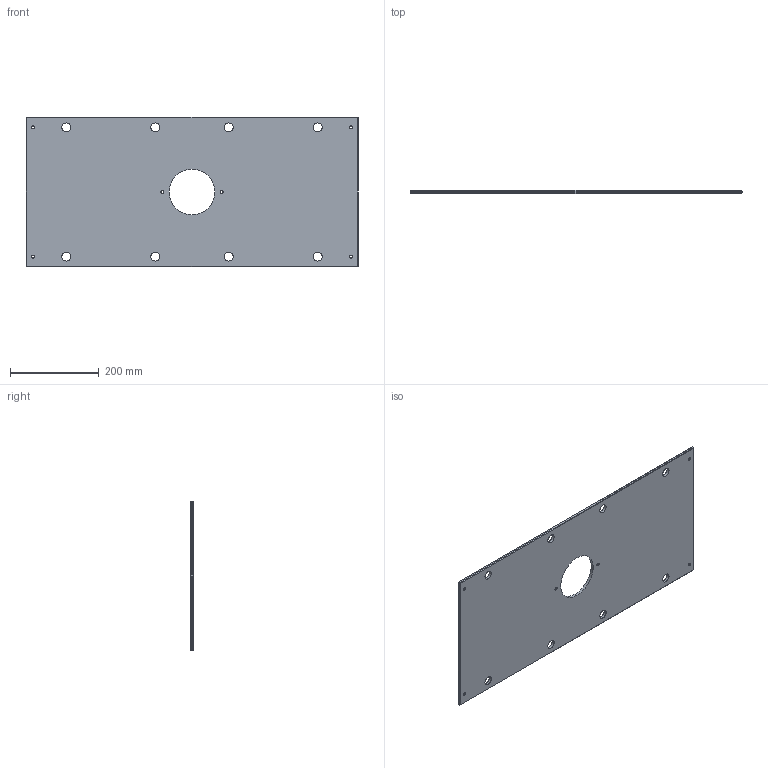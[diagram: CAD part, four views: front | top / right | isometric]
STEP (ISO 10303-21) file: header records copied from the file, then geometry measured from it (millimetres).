
FILE_DESCRIPTION (( 'STEP AP214' ), '1' );
FILE_NAME ('ME-0619-CH-1329.STEP', '2020-02-11T14:54:04', ( '' ), ( '' ), 'SwSTEP 2.0', 'SolidWorks 2018', '' );
FILE_SCHEMA (( 'AUTOMOTIVE_DESIGN' ));
Length unit declared in the file: inch
Products named in the file (1): ME-0619-CH-1329
Bounding box: 746.12 x 6.35 x 336.55 mm (x, y, z)
Volume: 1519502.5 mm3; surface area: 496510.6 mm2
Topology: 1 solids, 1 shells, 68 faces, 162 edges, 96 vertices
Faces by surface type: cylinder 30, plane 26, cone 12
Entity records: 2050 total; most frequent: DIRECTION 372, CARTESIAN_POINT 327, ORIENTED_EDGE 324, EDGE_CURVE 162, AXIS2_PLACEMENT_3D 141, EDGE_LOOP 98, VERTEX_POINT 96, LINE 90
